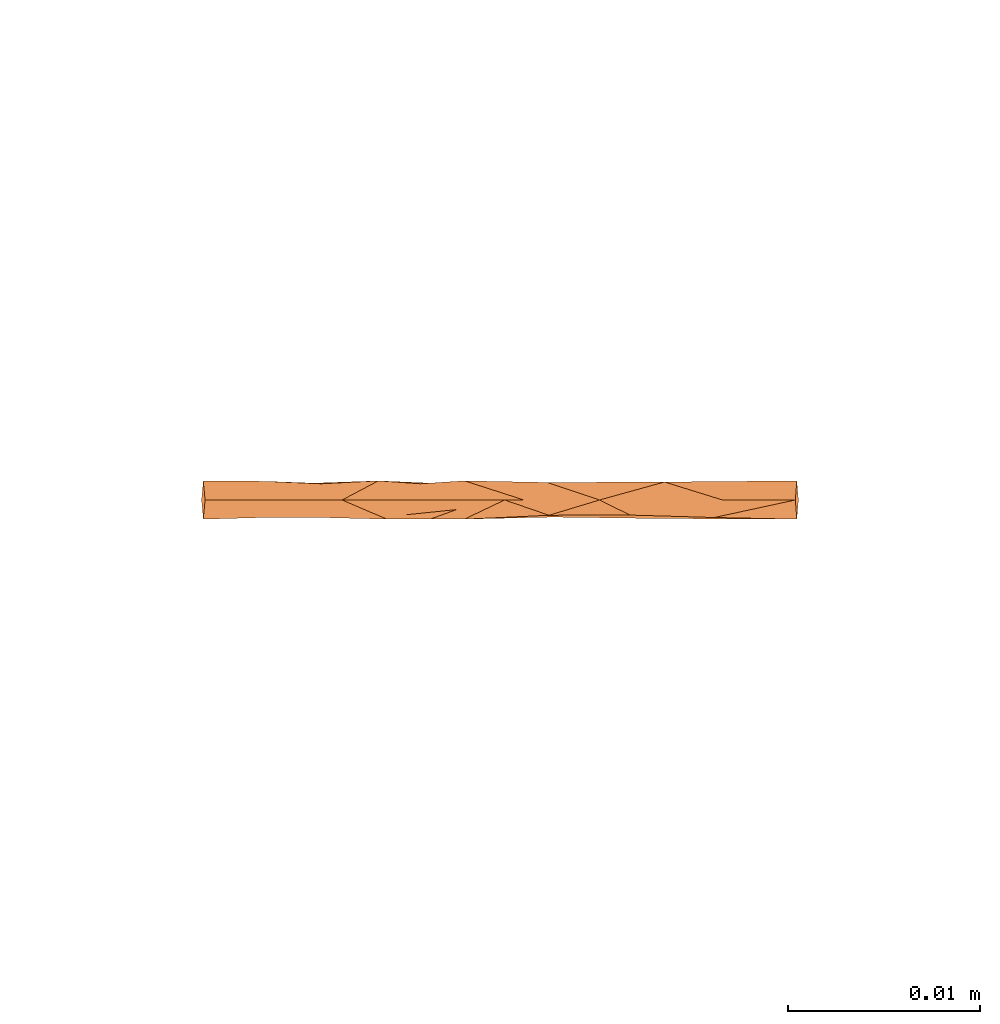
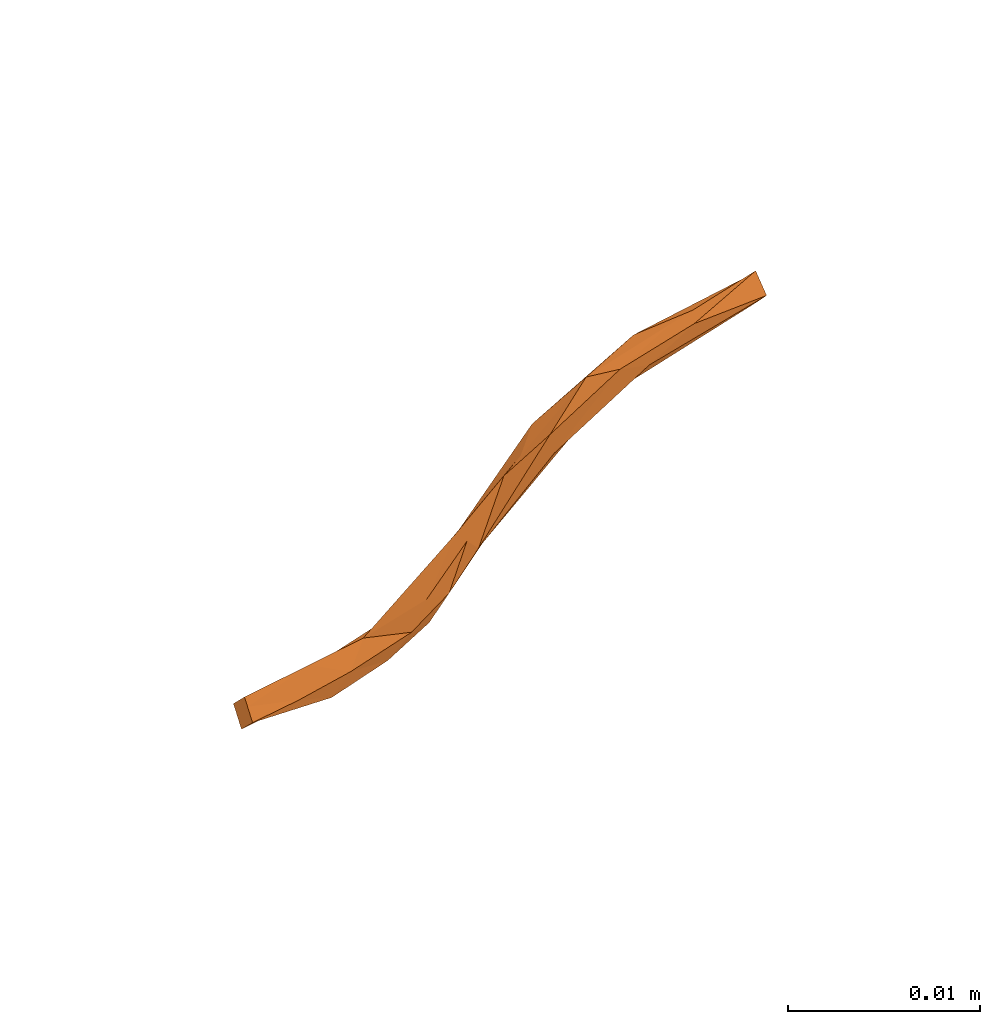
# One storey, part 194 of 197: 1 proxy.
"""IFC2X3 building model written with IfcOpenShell, lengths in metres."""

import ifcopenshell
import ifcopenshell.guid

model = None  # the IFC model being written
_history = None  # IfcOwnerHistory: only IFC2X3 demands one
_inside = {}  # id of a spatial element -> (the spatial element, [elements in it])
_under = {}  # id of a project, library or spatial element -> (it, [spatial elements below it])
_declared = {}  # id of a project -> (the project, [libraries it declares])
_typed = {}  # id of a type object -> (the type object, [elements of that type])
_made_of = {}  # id of a material, layer set ... -> (it, [elements and type objects made of it])


def new_model(schema):
    """Start an empty IFC model of exactly this schema.

    Asked for "IFC4X3", IfcOpenShell would pick the latest addendum, in which some entities
    have other attributes; the version numbers below select the first issue.
    IFC2X3 requires an IfcOwnerHistory on every rooted entity: one is made here for all.
    """
    global model, _history
    if schema == "IFC4X3":
        model = ifcopenshell.file(schema_version=(4, 3, 0, 0))
    else:
        model = ifcopenshell.file(schema=schema)
    _inside.clear()
    _under.clear()
    _declared.clear()
    _typed.clear()
    _made_of.clear()
    _history = None
    if model.schema == "IFC2X3":
        org = make("IfcOrganization", Name="unknown")
        user = make(
            "IfcPersonAndOrganization",
            ThePerson=make("IfcPerson", FamilyName="unknown"),
            TheOrganization=org,
        )
        app = make(
            "IfcApplication",
            ApplicationDeveloper=org,
            Version="unknown",
            ApplicationFullName="unknown",
            ApplicationIdentifier="unknown",
        )
        _history = make(
            "IfcOwnerHistory",
            OwningUser=user,
            OwningApplication=app,
            ChangeAction="ADDED",
            CreationDate=0,
        )
    return model


def make(cls, **values):
    """One entity of the class cls with the attributes given. An attribute that is None is left unset."""
    return model.create_entity(
        cls, **{name: value for name, value in values.items() if value is not None}
    )


def entity(cls, *values):
    """Any entity or typed value of the class cls, its attributes in the order of the schema. None: left unset."""
    e = model.create_entity(cls)
    for i, value in enumerate(values):
        if value is not None:
            e[i] = value
    return e


def rooted(cls, **values):
    """An entity with a GlobalId (a new one), such as an element, a storey or a relation."""
    return make(cls, GlobalId=ifcopenshell.guid.new(), OwnerHistory=_history, **values)


def si_unit(unit_type, name, prefix=None):
    """IfcSIUnit, for example si_unit("LENGTHUNIT", "METRE", prefix="MILLI")."""
    return make("IfcSIUnit", UnitType=unit_type, Prefix=prefix, Name=name)


def converted_unit(unit_type, name, factor, base, dimensions=None, offset=None):
    """IfcConversionBasedUnit, such as the inch: factor (a typed value) times the base unit."""
    return make(
        "IfcConversionBasedUnit"
        if offset is None
        else "IfcConversionBasedUnitWithOffset",
        ConversionOffset=offset,
        Dimensions=None
        if dimensions is None
        else entity("IfcDimensionalExponents", *dimensions),
        UnitType=unit_type,
        Name=name,
        ConversionFactor=make(
            "IfcMeasureWithUnit", ValueComponent=factor, UnitComponent=base
        ),
    )


def assignment(units):
    """IfcUnitAssignment: the units of a project."""
    return None if units is None else make("IfcUnitAssignment", Units=units)


def point(xyz):
    """IfcCartesianPoint."""
    return None if xyz is None else make("IfcCartesianPoint", Coordinates=xyz)


def direction(xyz):
    """IfcDirection."""
    return None if xyz is None else make("IfcDirection", DirectionRatios=xyz)


def frame(location, z_axis=None, x_axis=None):
    """IfcAxis2Placement3D, a coordinate frame: its origin and axes. An axis left out is left unset."""
    return make(
        "IfcAxis2Placement3D",
        Location=point(location),
        Axis=direction(z_axis),
        RefDirection=direction(x_axis),
    )


def origin():
    """The frame at (0, 0, 0) with its axes left unset."""
    return frame((0.0, 0.0, 0.0))


def place(relative_to, where):
    """IfcLocalPlacement: puts the frame where relative to a parent placement (None: the world)."""
    return make(
        "IfcLocalPlacement", PlacementRelTo=relative_to, RelativePlacement=where
    )


def context(
    kind, dimensions, precision=None, world=None, true_north=None, identifier=None
):
    """IfcGeometricRepresentationContext, for example the 3D "Model" context."""
    return make(
        "IfcGeometricRepresentationContext",
        ContextIdentifier=identifier,
        ContextType=kind,
        CoordinateSpaceDimension=dimensions,
        Precision=precision,
        WorldCoordinateSystem=world,
        TrueNorth=true_north,
    )


def subcontext(parent, identifier, kind, view, scale=None):
    """IfcGeometricRepresentationSubContext, for example "Body" below "Model"."""
    return make(
        "IfcGeometricRepresentationSubContext",
        ContextIdentifier=identifier,
        ContextType=kind,
        ParentContext=parent,
        TargetScale=scale,
        TargetView=view,
    )


def project(units=None, contexts=None):
    """IfcProject with its units and contexts."""
    return rooted(
        "IfcProject",
        Name="project",
        RepresentationContexts=contexts,
        UnitsInContext=assignment(units),
    )


def spatial(cls, under=None, at=None, **own):
    """A site, building, storey or space (cls), placed at a placement, below another one or the project."""
    s = rooted(cls, ObjectPlacement=at, **own)
    if under is not None:
        _under.setdefault(under.id(), (under, []))[1].append(s)
    return s


def faces_of(points, faces, orient=None, outer=None):
    """IfcFace entities. A face is a list of loops; a loop is a list of indices into points, from 0.

    orient and outer hold one flag for each loop. By default every Orientation is true, the
    first loop of a face is its IfcFaceOuterBound and the others are IfcFaceBound.
    """
    made = []
    for i, loops in enumerate(faces):
        bounds = []
        for j, loop in enumerate(loops):
            is_outer = j == 0 if outer is None else outer[i][j]
            bounds.append(
                make(
                    "IfcFaceOuterBound" if is_outer else "IfcFaceBound",
                    Bound=make("IfcPolyLoop", Polygon=[points[k] for k in loop]),
                    Orientation=True if orient is None else orient[i][j],
                )
            )
        made.append(make("IfcFace", Bounds=bounds))
    return made


def faceted_brep(points, faces, orient=None, outer=None, voids=None):
    """IfcFacetedBrep: a solid bounded by flat faces; with voids (closed shells), ...WithVoids."""
    shared = [point(p) for p in points]
    hull = make("IfcClosedShell", CfsFaces=faces_of(shared, faces, orient, outer))
    if voids is None:
        return make("IfcFacetedBrep", Outer=hull)
    return make(
        "IfcFacetedBrepWithVoids",
        Outer=hull,
        Voids=[
            make(cls, CfsFaces=faces_of(shared, fs, o, b)) for cls, fs, o, b in voids
        ],
    )


def shape(context_of_items, identifier, shape_type, items):
    """IfcShapeRepresentation: the items that make up one representation, for example the "Body"."""
    return make(
        "IfcShapeRepresentation",
        ContextOfItems=context_of_items,
        RepresentationIdentifier=identifier,
        RepresentationType=shape_type,
        Items=items,
    )


def source(mapping_origin, context_of_items, identifier, shape_type, items):
    """IfcRepresentationMap: a shape defined once, which mapped items show again and again."""
    return make(
        "IfcRepresentationMap",
        MappingOrigin=mapping_origin,
        MappedRepresentation=shape(context_of_items, identifier, shape_type, items),
    )


def transform(
    local_origin,
    x_axis=None,
    y_axis=None,
    z_axis=None,
    scale=None,
    scale2=None,
    scale3=None,
    uniform=True,
):
    """IfcCartesianTransformationOperator3D, or its non-uniform kind. x_axis, y_axis, z_axis: its Axis1, 2, 3."""
    if uniform:
        return make(
            "IfcCartesianTransformationOperator3D",
            Axis1=direction(x_axis),
            Axis2=direction(y_axis),
            LocalOrigin=point(local_origin),
            Scale=scale,
            Axis3=direction(z_axis),
        )
    return make(
        "IfcCartesianTransformationOperator3DnonUniform",
        Axis1=direction(x_axis),
        Axis2=direction(y_axis),
        LocalOrigin=point(local_origin),
        Scale=scale,
        Axis3=direction(z_axis),
        Scale2=scale2,
        Scale3=scale3,
    )


def mapped(mapping_source, mapping_target):
    """IfcMappedItem: shows the shape of a source again, moved by a transform."""
    return make(
        "IfcMappedItem", MappingSource=mapping_source, MappingTarget=mapping_target
    )


def material(Name=None, Category=None):
    """IfcMaterial."""
    return make("IfcMaterial", Name=Name, Category=Category)


def made_of(thing, what):
    """Note that an element or type object is made of a material, layer set ...; save() writes the relation."""
    if what is not None:
        _made_of.setdefault(what.id(), (what, []))[1].append(thing)
    return thing


def type_object(cls, material=None, **own):
    """A type object (cls), such as IfcWallType, which elements share."""
    return made_of(rooted(cls, **own), material)


def type_shapes(of_type, sources):
    """Give a type object the sources (RepresentationMaps) that its elements show as mapped items."""
    of_type.RepresentationMaps = sources


def element(
    cls,
    number,
    at=None,
    inside=None,
    cuts=None,
    type_object=None,
    material=None,
    context=None,
    identifier="Body",
    shape_type=None,
    held_by="IfcProductDefinitionShape",
    body=None,
    shapes=None,
    **own,
):
    """One element of the class cls, such as IfcWall. Its Tag is "e" and its number.

    at: its placement. inside: the storey or other place that contains it. cuts: it is an
    opening in that element (IfcRelVoidsElement). A single representation is given by context,
    identifier, shape_type and body (its items); several are given by shapes. held_by: the class
    of the entity that holds the representations. save() writes the other relations.
    """
    e = rooted(cls, Tag="e%d" % number, ObjectPlacement=at, **own)
    if body is not None:
        shapes = [shape(context, identifier, shape_type, body)]
    if shapes is not None:
        e.Representation = make(held_by, Representations=shapes)
    if inside is not None:
        _inside.setdefault(inside.id(), (inside, []))[1].append(e)
    if cuts is not None:
        rooted(
            "IfcRelVoidsElement", RelatingBuildingElement=cuts, RelatedOpeningElement=e
        )
    if type_object is not None:
        _typed.setdefault(type_object.id(), (type_object, []))[1].append(e)
    return made_of(e, material)


def aggregate(whole, parts):
    """IfcRelAggregates: a whole, such as a stair, and the parts it consists of."""
    return rooted("IfcRelAggregates", RelatingObject=whole, RelatedObjects=parts)


def save(model, path):
    """Write the relations noted so far, then the file.

    IfcRelAggregates (storeys below a building ...), IfcRelContainedInSpatialStructure (elements
    in a storey), IfcRelDefinesByType, IfcRelAssociatesMaterial and IfcRelDeclares: one each for
    every whole, place, type object, material and project.
    """
    for whole, parts in _under.values():
        aggregate(whole, parts)
    for where, things in _inside.values():
        rooted(
            "IfcRelContainedInSpatialStructure",
            RelatedElements=things,
            RelatingStructure=where,
        )
    for kind, things in _typed.values():
        rooted("IfcRelDefinesByType", RelatedObjects=things, RelatingType=kind)
    for what, things in _made_of.values():
        rooted("IfcRelAssociatesMaterial", RelatedObjects=things, RelatingMaterial=what)
    for by, libraries in _declared.values():
        rooted("IfcRelDeclares", RelatingContext=by, RelatedDefinitions=libraries)
    model.write(path)


model = new_model("IFC2X3")

# Units and contexts
model_context = context("Model", 3, precision=1e-05, world=origin(), true_north=direction((6.123031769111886e-17, 1.0)))
body_context = subcontext(model_context, "Body", "Model", "MODEL_VIEW")
ifc_project = project(units=[si_unit("LENGTHUNIT", "METRE"), converted_unit("PLANEANGLEUNIT", "DEGREE", entity("IfcPlaneAngleMeasure", 0.017453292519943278), si_unit("PLANEANGLEUNIT", "RADIAN"), dimensions=[0, 0, 0, 0, 0, 0, 0]), si_unit("AREAUNIT", "SQUARE_METRE")], contexts=[model_context])

# Site, building, storey
site_placement = place(None, origin())
site = spatial("IfcSite", under=ifc_project, at=site_placement, Name="Default", CompositionType="ELEMENT")
building_placement = place(site_placement, origin())
building = spatial("IfcBuilding", under=site, at=building_placement, CompositionType="ELEMENT")
storey_placement = place(building_placement, origin())
storey = spatial("IfcBuildingStorey", under=building, at=storey_placement, Name="Niveau 0", CompositionType="ELEMENT", Elevation=0.0)

# Proxy
ifc_material = material(Name="<Unnamed>")
building_element_proxy_type = type_object("IfcBuildingElementProxyType", Name="Attente électrique-50e:FM ELEC", PredefinedType="NOTDEFINED", material=ifc_material)
shared_shape = source(origin(), body_context, "Body", "Brep", [
    faceted_brep([(0.00015679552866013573, 0.02468901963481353, 0.0071236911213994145), (-0.0008432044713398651, 0.024606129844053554, 0.00812024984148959), (0.00015679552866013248, 0.024523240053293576, 0.009116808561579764), (0.0011567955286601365, 0.024606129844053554, 0.008120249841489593), (0.0010682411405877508, 0.020307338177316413, 0.007781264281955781), (0.0001567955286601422, 0.020902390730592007, 0.005938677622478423), (0.0011263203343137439, 0.017575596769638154, 0.006150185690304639), (0.0001567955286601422, 0.015326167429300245, 0.00419361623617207), (0.00015679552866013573, 0.020007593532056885, 0.005658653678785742), (0.00015679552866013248, 0.014326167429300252, 0.005925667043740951), (0.0009522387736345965, 0.011698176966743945, 0.0036743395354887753), (0.0009420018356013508, 0.015917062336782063, 0.006344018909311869), (0.00015679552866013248, 0.010395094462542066, 0.0023079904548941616), (0.00015679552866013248, 0.009383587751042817, 0.0013771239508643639), (0.00015679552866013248, 0.006464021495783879, -0.00130968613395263), (0.0006567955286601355, 0.006874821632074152, -0.0015947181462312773), (0.0011567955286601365, 0.007285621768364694, -0.0018797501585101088), (0.0001567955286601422, 0.008107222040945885, -0.002449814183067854), (0.0010477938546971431, 0.01190066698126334, 0.002476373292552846), (0.0001567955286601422, 0.011716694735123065, 0.000871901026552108), (0.00015679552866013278, 0.020736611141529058, 0.007931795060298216), (0.00015679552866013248, 0.01942470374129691, 0.0075212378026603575), (-0.000613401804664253, 0.017791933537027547, 0.005814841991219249), (-0.0008432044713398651, 0.007285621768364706, -0.0018797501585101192), (-0.0006561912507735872, 0.013063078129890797, 0.003217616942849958), (-0.0007811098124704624, 0.017711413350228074, 0.006845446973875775), (-0.000757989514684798, 0.011606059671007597, 0.0033430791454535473), (0.00015679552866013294, -0.006217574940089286, -0.0072232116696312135), (-0.0008432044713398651, -0.006308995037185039, -0.00821902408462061), (-0.00022603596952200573, -0.006365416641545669, -0.008833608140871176), (0.00015679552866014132, -0.006400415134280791, -0.009214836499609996), (0.0011567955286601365, -0.006308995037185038, -0.008219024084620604), (0.0005396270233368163, -0.0062525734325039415, -0.00760444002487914), (0.00015679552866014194, 0.003425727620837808, -0.0063951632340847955), (0.0008639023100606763, 0.004493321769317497, -0.0058064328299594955), (0.0009254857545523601, 0.001962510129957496, -0.0072987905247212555), (0.0001567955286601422, -0.0025053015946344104, -0.008536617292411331), (0.00015679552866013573, 0.004937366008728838, -0.005121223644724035), (0.00015679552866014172, 0.005083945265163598, -0.004997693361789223), (0.00015679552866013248, -0.002322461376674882, -0.0065449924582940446), (0.00015679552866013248, -0.002647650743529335, -0.006601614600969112), (0.0009203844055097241, 0.0043012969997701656, -0.004224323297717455), (0.00015679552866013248, 0.0036931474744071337, -0.00364485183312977), (0.00015679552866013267, 0.0034407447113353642, -0.0038575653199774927), (0.00015679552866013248, 0.0009222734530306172, -0.005980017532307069), (0.0010089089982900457, -0.0014622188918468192, -0.008405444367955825), (0.0010645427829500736, -0.00036395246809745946, -0.007116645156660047), (0.0011567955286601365, 0.003257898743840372, -0.005816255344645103), (0.0001567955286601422, 0.0017675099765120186, -0.007792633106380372), (0.0010782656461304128, -0.003480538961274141, -0.007818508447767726), (0.0011516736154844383, 0.00551461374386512, -0.004127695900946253), (-0.0006872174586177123, 0.004983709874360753, -0.0037543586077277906), (-0.0008432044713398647, 0.0028123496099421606, -0.006099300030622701), (-0.0006218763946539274, -0.0034380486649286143, -0.008835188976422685), (-0.0008173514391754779, -0.0031055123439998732, -0.007939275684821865), (-0.0007245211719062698, -0.0005251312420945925, -0.008103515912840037), (-0.0007251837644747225, 0.005518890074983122, -0.00463485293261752), (-0.0006856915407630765, -0.00016389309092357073, -0.00692183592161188)], [[[0, 1, 2, 3]], [[2, 4, 3]], [[3, 5, 0]], [[6, 5, 3]], [[6, 7, 8, 5]], [[9, 10, 11]], [[10, 9, 12, 13]], [[13, 14, 15, 16]], [[16, 10, 13]], [[17, 18, 16]], [[18, 17, 19, 7]], [[11, 10, 18]], [[6, 18, 7]], [[11, 18, 6]], [[10, 16, 18]], [[4, 6, 3]], [[4, 11, 6]], [[4, 2, 20, 21]], [[21, 9, 11]], [[21, 11, 4]], [[22, 1, 0]], [[23, 24, 19]], [[25, 9, 21, 20]], [[25, 20, 1]], [[7, 24, 22]], [[25, 24, 26]], [[24, 7, 19]], [[24, 23, 26]], [[23, 12, 26]], [[20, 2, 1]], [[25, 22, 24]], [[9, 25, 26]], [[17, 23, 19]], [[1, 22, 25]], [[22, 0, 5, 8, 7]], [[23, 14, 13, 12]], [[12, 9, 26]], [[27, 28, 29, 30, 31, 32]], [[33, 34, 35]], [[31, 30, 36]], [[34, 33, 37, 38]], [[32, 39, 40, 27]], [[41, 14, 42, 43, 44]], [[45, 31, 36]], [[44, 46, 47]], [[39, 46, 44]], [[48, 33, 35]], [[15, 14, 41]], [[35, 46, 45]], [[49, 32, 31]], [[45, 46, 49]], [[16, 50, 17]], [[32, 49, 39]], [[39, 49, 46]], [[31, 45, 49]], [[48, 45, 36]], [[47, 35, 34]], [[50, 38, 17]], [[50, 47, 34]], [[46, 35, 47]], [[45, 48, 35]], [[50, 34, 38]], [[41, 47, 50]], [[50, 16, 15]], [[47, 41, 44]], [[15, 41, 50]], [[43, 51, 52]], [[51, 14, 23]], [[43, 52, 44]], [[53, 54, 55]], [[56, 17, 38, 37, 33, 48]], [[54, 53, 28]], [[48, 55, 52]], [[52, 55, 57]], [[56, 52, 51]], [[52, 57, 44]], [[54, 57, 55]], [[48, 36, 55]], [[40, 57, 54]], [[36, 30, 29]], [[54, 27, 40]], [[57, 40, 39, 44]], [[54, 28, 27]], [[53, 55, 36]], [[36, 29, 53]], [[28, 53, 29]], [[51, 43, 42, 14]], [[52, 56, 48]], [[56, 51, 23]], [[17, 56, 23]]]),
])
type_shapes(building_element_proxy_type, [shared_shape])
proxy_placement = place(storey_placement, frame((16.44907810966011, 149.87186099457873, 0.0), z_axis=(0.0, 0.0, 1.0), x_axis=(0.0, -1.0, 0.0)))
element("IfcBuildingElementProxy", 1, at=proxy_placement, inside=storey, type_object=building_element_proxy_type, material=ifc_material, Name="Attente électrique-50e:FM ELEC", ObjectType="Attente électrique-50e:FM ELEC", context=body_context, shape_type="MappedRepresentation", body=[
    mapped(shared_shape, transform((0.0, 0.0, 0.0), scale=1.0)),
])

save(model, "model.ifc")
